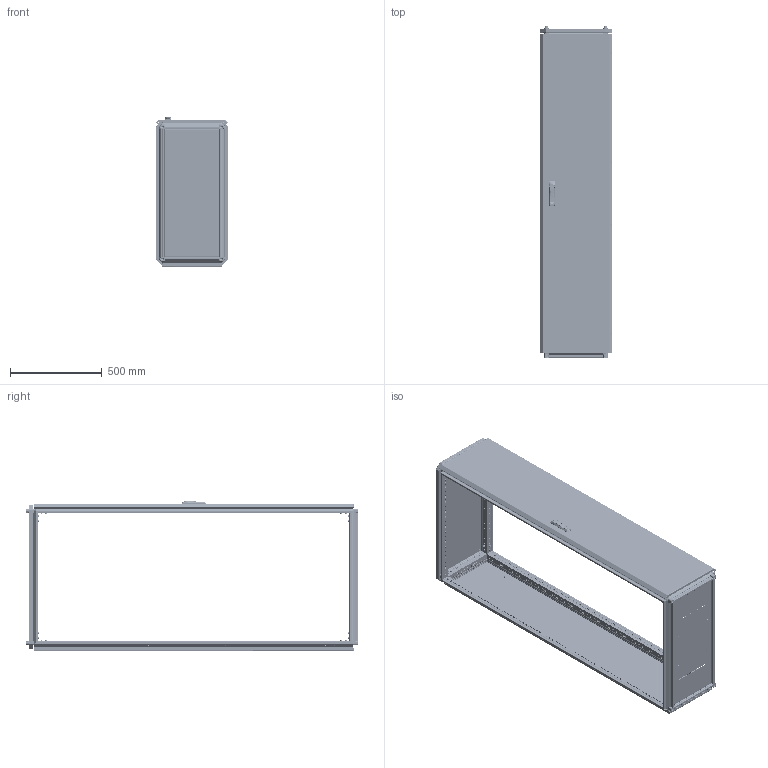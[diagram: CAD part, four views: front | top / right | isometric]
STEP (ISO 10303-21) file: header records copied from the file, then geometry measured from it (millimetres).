
FILE_DESCRIPTION (( 'STEP AP203' ), '1' );
FILE_NAME ('MA1.000.040818.10.00 AleSta1848 Øêàô AleSta 400õ800õ1800.STEP', '2024-08-23T07:29:45', ( '' ), ( '' ), 'SwSTEP 2.0', 'SolidWorks 2021', '' );
FILE_SCHEMA (( 'CONFIG_CONTROL_DESIGN' ));
Length unit declared in the file: millimetre
Products named in the file (50): Âèíò ñàìîíàðåçàþùèé ñ ïîòàéíîé ãîëîâêîé Ì5x14 DIN 7500 M TORX, êëàññ ïðî÷íîñòè 8.8, îöèíêîâàííàÿ ñòàëü_Œ5å14; Óïëîòíèòåëü ïàíåëè íèæíåé_400å800; Øïèëüêà Ì6õ12_˜¯¨«ìª  Œ6å16; êðåïëåíèå_êðóãëîé_òÿãè_RG1020-1.stp; Âèíò ñàìîíàðåçàþùèé ñ ïîòàéíîé ãîëîâêîé Ì5x14 DIN 7500 M TORX, êëàññ ïðî÷íîñòè 8.8, îöèíêîâàííàÿ ñòàëü_Œ5å12; MA1.101.060620.20.02 Çàêðûòèå íèæíåé ïàíåëè 600õ600_400x800; Áîëò øåñòèãðàííûé Ì5õ12 DIN 933, êëàññ ïðî÷íîñòè 8.8, îöèíêîâàííàÿ ñòàëü; MS463-2-3(1); MA1.200.060620.11.01 Ïîëîòíî çàäíåé ïàíåëè 2000õ600_1800å400; MA1.102.060620.00.00 AleSta-VG2000 Ñòîéêè âåðòèêàëüíûå, Â=2000ìì  (4øò)_  400å800; Âèíò ñ âí. øåñòèãðàííèêîì M12 DIN912_•30; 諘蜱齁罻 022 瀁錒瀔隮; MA1.200.060620.31.04 ðèãåëü çàìêà äâåðè; MA1.200.060620.31.02 Ðåéêà íà äâåðü âåðòèêàëüíàÿ Â = 2000_‚=1800; MA1.101.060620.20.01 Ïîëîòíî íèæíåé ïàíåëè 600õ600_400å800; MA1.101.060620.10.01 Ïîëîòíî êðûøè 600õ600_400å800; Ãàéêà ñàìîêîíòðÿùàÿñÿ ñ íåéëîíîâîé âñòàâêîé Ì6 DIN 985, êëàññ ïðî÷íîñòè 8, îöèíêîâàííàÿ ñòàëü_Œ6; Ïðîáêà ïëàñòèêîâàÿ óíèâåðñàëüíàÿ ïîä îòâåðñòèå 4,5 ìì, ñåðèÿ ST, öâåò áåñöâåòíûé – ST4,5; MA1.200.060620.30.00 AleSta-D20M600 Äâåðü ñïëîøíàÿ äëÿ øêàôîâ ALESTA ÂõØ 2000õ600_1800å400; MA1.200.060620.10.00 AleSta-PR206  Ïàíåëü çàäíÿÿ, äëÿ øêàôîâ ALESTA, 2000 x 600_1800å400; MA1.101.060620.00.02 Ïðîôèëü ïîïåðå÷íûé ñâàðíîé_00 L=298 (˜=400); Âèíò_ðåçüáîâûäàâëèâàþùèé_Ì5õ12_DIN 7500E_00; MA1.100.060620.00.01 Ñîåäèíèòåëü óãëîâîé_00; MA1.101.060620.10.00 Êðûøà 600x600_400å800; Íàâåñêà íà êîðïóñ ïîä êëåïêó; MA1.101.060620.20.00 Íèæíÿÿ ïàíåëü 600õ600_400å800; MA1.200.060620.11.00 Ïàíåëü çàäíÿÿ, äëÿ øêàôîâ AleSta, 2000x600_1800å400; MA1.101.060620.00.02 Ïðîôèëü ïîïåðå÷íûé ñâàðíîé_02 L=698 (˜=800) ; ﾇﾀﾊﾋﾅﾏﾊﾀ ﾃﾀﾅﾗﾍﾀﾟ ﾘﾅﾑﾒﾈﾃﾐﾀﾍﾍﾀﾟ ﾑ ﾓﾌﾅﾍﾜﾘﾅﾍﾍﾛﾌ ﾁﾎﾐﾒﾎﾌ M4 X 11 (0.5-2.5 ﾌﾌ) HEX U-S ﾖﾈﾍﾊ; MA1.200.060620.31.01 Ïîëîòíî äâåðè ñïëîøíîé 2000õ600_1800å400; 7380-2 ISO Âèíòû ñ ïîëóêðóãëîé ãîëîâêîé ñ ôëàíöåì ñ âíóòðåííèì øåñòèãðàííèêîì Ì4õ10; MA1.101.060620.00.00 AleSta-RB66 Êîìïëåêò êðûøà è îñíîâàíèå_  400å800; MA1.102.060620.00.01 Ïðîôèëü âåðòèêàëüíûé ñâàðíîé_03 L=1698 (‚=1800); Âèíò_ðåçüáîâûäàâëèâàþùèé_Ì5õ12_DIN 7500E_Œ5å12; Îñü ïåòëè 4õ52_‚¨­â A.M4x0,5x40 ƒŽ‘’ 11644-75; Øïèëüêà Ì6õ12_˜¯¨«ìª  Œ6å12; Ãàéêà ñàìîêîíòðÿùàÿñÿ ñ íåéëîíîâîé âñòàâêîé Ì6 DIN 985, êëàññ ïðî÷íîñòè 8, îöèíêîâàííàÿ ñòàëü_Œ5; äåðæàòåëü_êðóãëîé_òÿãèRG002-RG1010-2-i-RG1010-3-.stp; òÿãà_lg001-2.STEP_‚ =1800; ﾘ琺矜 01.019 ﾃﾎﾑﾒ11371-78_12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
Assembly tree (337 placements, depth 4):
  Ïðîáêà ïëàñòèêîâàÿ óíèâåðñàëüíàÿ ïîä îòâåðñòèå 4,5 ìì, ñåðèÿ ST, öâåò áåñöâåòíûé – ST4,5
  MA1.000.040818.10.00 AleSta1848 Øêàô AleSta 400õ800õ1800
    MA1.101.060620.00.00 AleSta-RB66 Êîìïëåêò êðûøà è îñíîâàíèå_  400å800
      MA1.101.060620.00.02 Ïðîôèëü ïîïåðå÷íûé ñâàðíîé_02 L=698 (˜=800)   x4
      MA1.101.060620.00.02 Ïðîôèëü ïîïåðå÷íûé ñâàðíîé_00 L=298 (˜=400)  x4
      MA1.101.060620.10.00 Êðûøà 600x600_400å800
        MA1.101.060620.10.01 Ïîëîòíî êðûøè 600õ600_400å800
        Øïèëüêà Ì6õ12_˜¯¨«ìª  Œ6å12  x4
        Óïëîòíèòåëü ïàíåëè íèæíåé_400å800
      MA1.101.060620.20.00 Íèæíÿÿ ïàíåëü 600õ600_400å800
        MA1.101.060620.20.01 Ïîëîòíî íèæíåé ïàíåëè 600õ600_400å800
        ﾇﾀﾊﾋﾅﾏﾊﾀ ﾃﾀﾅﾗﾍﾀﾟ ﾘﾅﾑﾒﾈﾃﾐﾀﾍﾍﾀﾟ ﾑ ﾓﾌﾅﾍﾜﾘﾅﾍﾍﾛﾌ ﾁﾎﾐﾒﾎﾌ M4 X 11 (0.5-2.5 ﾌﾌ) HEX U-S ﾖﾈﾍﾊ  x4
        MA1.101.060620.20.02 Çàêðûòèå íèæíåé ïàíåëè 600õ600_400x800  x2
        7380-2 ISO Âèíòû ñ ïîëóêðóãëîé ãîëîâêîé ñ ôëàíöåì ñ âíóòðåííèì øåñòèãðàííèêîì Ì4õ10  x4
      Âèíò_ðåçüáîâûäàâëèâàþùèé_Ì5õ12_DIN 7500E_Œ5å12  x8
      MA1.100.060620.00.01 Ñîåäèíèòåëü óãëîâîé_00  x8
      Âèíò ñ âí. øåñòèãðàííèêîì M12 DIN912_•30  x4
      Âèíò ðåçüáîâûäàâëèâàþùèé Ì6õ12 DIN 7500E_Œ6å10  x96
      ﾘ琺矜 01.019 ﾃﾎﾑﾒ11371-78_12  x4
      ﾘ琺矜 65ﾃ 019 ﾃﾎﾑﾒ 6402-70_12  x4
      Øàéáà ñòîïîðíàÿ ñ íàðóæíûìè çóáöàìè SCHNORR, òèï VS öèíêîâûå õëîïüÿ Ì6 O6,4 ART 88121_Œ6  x80
    MA1.102.060620.00.00 AleSta-VG2000 Ñòîéêè âåðòèêàëüíûå, Â=2000ìì  (4øò)_  400å800
      MA1.102.060620.00.01 Ïðîôèëü âåðòèêàëüíûé ñâàðíîé_03 L=1698 (‚=1800)  x4
    MA1.200.060620.10.00 AleSta-PR206  Ïàíåëü çàäíÿÿ, äëÿ øêàôîâ ALESTA, 2000 x 600_1800å400
      MA1.200.060620.11.00 Ïàíåëü çàäíÿÿ, äëÿ øêàôîâ AleSta, 2000x600_1800å400
        MA1.200.060620.11.01 Ïîëîòíî çàäíåé ïàíåëè 2000õ600_1800å400
        Óïëîòíèòåëü ïàíåëè íèæíåé_  ‚=1800
        Øïèëüêà Ì6õ12_˜¯¨«ìª  Œ6å12  x4
      Âèíò ñàìîíàðåçàþùèé ñ ïîòàéíîé ãîëîâêîé Ì5x14 DIN 7500 M TORX, êëàññ ïðî÷íîñòè 8.8, îöèíêîâàííàÿ ñòàëü_Œ5å14  x8
    MA1.200.060620.30.00 AleSta-D20M600 Äâåðü ñïëîøíàÿ äëÿ øêàôîâ ALESTA ÂõØ 2000õ600_1800å400
      MA1.200.060620.31.00 Äâåðü ñïëîøíàÿ äëÿ øêàôîâ ALESTA ÂõØ 2000õ600_1800å400
        MA1.200.060620.31.01 Ïîëîòíî äâåðè ñïëîøíîé 2000õ600_1800å400
        Óïëîòíèòåëü ïàíåëè íèæíåé_  ‚=1800
        Øïèëüêà Ì6õ12_˜¯¨«ìª  Œ6å20  x16
        Øïèëüêà Ì6õ12_˜¯¨«ìª  Œ6å16  x4
        Ïåòëÿ íà äâåðü ï-îáðàçíàÿ  x4
      MA1.200.060620.31.03 Ðåéêà íà äâåðü ãîðèçîíòàëüíàÿ Ø = 600_˜=400  x2
      諘蜱齁罻 022 瀁錒瀔隮  x4
      MA1.200.060620.31.02 Ðåéêà íà äâåðü âåðòèêàëüíàÿ Â = 2000_‚=1800  x2
      äåðæàòåëü_êðóãëîé_òÿãèRG002-RG1010-2-i-RG1010-3-.stp  x2
      òÿãà_lg001-2.STEP_‚ =1800  x2
      êðåïëåíèå_êðóãëîé_òÿãè_RG1020-1.stp  x2
      MS463-2-3(1)
      Ãàéêà ñàìîêîíòðÿùàÿñÿ ñ íåéëîíîâîé âñòàâêîé Ì6 DIN 985, êëàññ ïðî÷íîñòè 8, îöèíêîâàííàÿ ñòàëü_Œ6  x16
      Ãàéêà ñàìîêîíòðÿùàÿñÿ ñ íåéëîíîâîé âñòàâêîé Ì6 DIN 985, êëàññ ïðî÷íîñòè 8, îöèíêîâàííàÿ ñòàëü_Œ5  x2
      Áîëò øåñòèãðàííûé Ì5õ12 DIN 933, êëàññ ïðî÷íîñòè 8.8, îöèíêîâàííàÿ ñòàëü  x2
      MA1.200.060620.31.04 ðèãåëü çàìêà äâåðè
      MA1.200.060620.31.05 Óãëîâîé óïîð äâåðíîé òÿãè  x2
      Âèíò_ðåçüáîâûäàâëèâàþùèé_Ì5õ12_DIN 7500E_00  x2
      Íàâåñêà íà êîðïóñ ïîä êëåïêó  x4
      Îñü ïåòëè 4õ52_‚¨­â A.M4x0,5x40 ƒŽ‘’ 11644-75  x4
      Âèíò ñàìîíàðåçàþùèé ñ ïîòàéíîé ãîëîâêîé Ì5x14 DIN 7500 M TORX, êëàññ ïðî÷íîñòè 8.8, îöèíêîâàííàÿ ñòàëü_Œ5å12  x8
Bounding box: 392 x 1810.9 x 816.8 mm (x, y, z)
Volume: 7497806.3 mm3; surface area: 9093119.1 mm2
Topology: 364 solids, 378 shells, 23371 faces, 60150 edges, 37608 vertices
Faces by surface type: plane 13993, cylinder 6685, bspline 921, cone 845, torus 829, sphere 98
Entity records: 245352 total; most frequent: CARTESIAN_POINT 79273, ORIENTED_EDGE 31730, DIRECTION 31200, EDGE_CURVE 15882, AXIS2_PLACEMENT_3D 10704, VERTEX_POINT 9885, LINE 9792, VECTOR 9792
